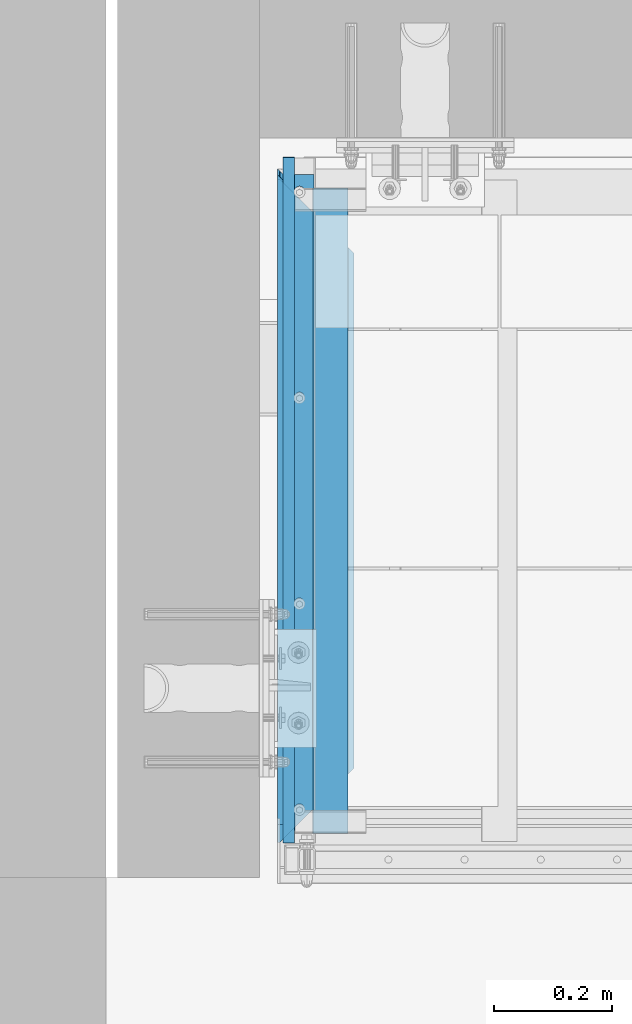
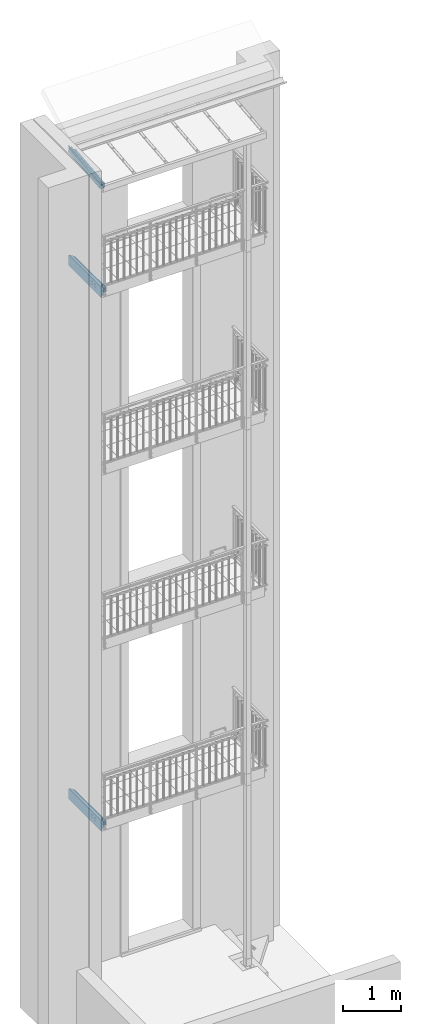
# One storey, part 37 of 162: 4 beams, 3 members, 22 openings.
"""IFC2X3 building model written with IfcOpenShell, lengths in millimetres."""

from ifc_helpers import new_model, entity, si_unit, converted_unit, point, frame, frame_2d, origin, origin_with_axes, origin_2d, place, context, project, spatial, polyline, circle_curve, line_curve, trimmed, segment, composite_curve, rectangle, hollow_rectangle, circle, outline, extrude, clip, halfspace, material, element, save


model = new_model("IFC2X3")

# Units and contexts
model_context = context("Model", 3, precision=1e-09, world=origin_with_axes())
ifc_project = project(units=[si_unit("LENGTHUNIT", "METRE", prefix="MILLI"), si_unit("AREAUNIT", "SQUARE_METRE"), si_unit("VOLUMEUNIT", "CUBIC_METRE"), converted_unit("PLANEANGLEUNIT", "DEGREE", entity("IfcPlaneAngleMeasure", 0.01745329), si_unit("PLANEANGLEUNIT", "RADIAN"), dimensions=[0, 0, 0, 0, 0, 0, 0])], contexts=[model_context])

# Site, building, storey
site_placement = place(None, origin_with_axes())
site = spatial("IfcSite", under=ifc_project, at=site_placement, Name="Hermannstra?e 1a, 60318 Frankfurt", CompositionType="ELEMENT")
building_placement = place(site_placement, origin_with_axes())
building = spatial("IfcBuilding", under=site, at=building_placement, Name="Struktur 1", CompositionType="ELEMENT")
storey_placement = place(building_placement, origin_with_axes())
storey = spatial("IfcBuildingStorey", under=building, at=storey_placement, Name="Default Storey", CompositionType="ELEMENT", Elevation=0.0)

# Beam, openings
ifc_material_1 = material(Name="S355JR")
beam_1_placement = place(None, frame((2618.30936482, 3047.91661163, 15121.999), z_axis=(0.0, -1.0, 0.0), x_axis=(1.0, 0.0, 0.0)))
beam_1 = element("IfcBeam", 1, at=beam_1_placement, inside=storey, material=ifc_material_1, Name="-", ObjectType="-", context=model_context, shape_type="Clipping", body=[
    clip(clip(extrude(outline(composite_curve([segment(trimmed(circle_curve(frame_2d((57.999999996, -107.999999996), x_axis=(1.0, 0.0)), 7.000000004), [point((58.0, -115.0))], [point((65.0, -108.0))], True, "CARTESIAN"), True, "CONTINUOUS"), segment(trimmed(line_curve((65.0, -108.0), (0.0, 1.0), 31.0), [point((65.0, -108.0))], [point((65.0, -77.0))], True, "CARTESIAN"), True, "CONTINUOUS"), segment(trimmed(circle_curve(frame_2d((57.999999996, -77.000000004), x_axis=(1.0, 0.0)), 7.000000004), [point((65.0, -77.0))], [point((58.0, -70.0))], True, "CARTESIAN"), True, "CONTINUOUS"), segment(trimmed(line_curve((58.0, -70.0), (-1.0, 0.0), 23.0), [point((58.0, -70.0))], [point((35.0, -70.0))], True, "CARTESIAN"), True, "CONTINUOUS"), segment(trimmed(line_curve((35.0, -70.0), (0.0, -1.0), 4.0), [point((35.0, -70.0))], [point((35.0, -74.0))], True, "CARTESIAN"), True, "CONTINUOUS"), segment(trimmed(line_curve((35.0, -74.0), (1.0, 0.0), 23.0), [point((35.0, -74.0))], [point((58.0, -74.0))], True, "CARTESIAN"), True, "CONTINUOUS"), segment(trimmed(circle_curve(frame_2d((57.999999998, -77.000000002), x_axis=(-1.0, 0.0)), 3.000000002), [point((58.0, -74.0))], [point((61.0, -77.0))], False, "CARTESIAN"), True, "CONTINUOUS"), segment(trimmed(line_curve((61.0, -77.0), (0.0, -1.0), 31.0), [point((61.0, -77.0))], [point((61.0, -108.0))], True, "CARTESIAN"), True, "CONTINUOUS"), segment(trimmed(circle_curve(frame_2d((57.999999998, -107.999999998), x_axis=(-1.0, 0.0)), 3.000000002), [point((61.0, -108.0))], [point((58.0, -111.0))], False, "CARTESIAN"), True, "CONTINUOUS"), segment(trimmed(line_curve((58.0, -111.0), (-1.0, 0.0), 116.0), [point((58.0, -111.0))], [point((-58.0, -111.0))], True, "CARTESIAN"), True, "CONTINUOUS"), segment(trimmed(circle_curve(frame_2d((-57.999999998, -107.999999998), x_axis=(-1.0, 0.0)), 3.000000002), [point((-58.0, -111.0))], [point((-61.0, -108.0))], False, "CARTESIAN"), True, "CONTINUOUS"), segment(trimmed(line_curve((-61.0, -108.0), (0.0, 1.0), 216.0), [point((-61.0, -108.0))], [point((-61.0, 108.0))], True, "CARTESIAN"), True, "CONTINUOUS"), segment(trimmed(circle_curve(frame_2d((-57.999999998, 107.999999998), x_axis=(-1.0, 0.0)), 3.000000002), [point((-61.0, 108.0))], [point((-58.0, 111.0))], False, "CARTESIAN"), True, "CONTINUOUS"), segment(trimmed(line_curve((-58.0, 111.0), (1.0, 0.0), 46.0), [point((-58.0, 111.0))], [point((-12.0, 111.0))], True, "CARTESIAN"), True, "CONTINUOUS"), segment(trimmed(circle_curve(frame_2d((-12.000000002, 107.999999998), x_axis=(-1.0, 0.0)), 3.000000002), [point((-12.0, 111.0))], [point((-9.0, 108.0))], False, "CARTESIAN"), True, "CONTINUOUS"), segment(trimmed(line_curve((-9.0, 108.0), (0.0, -1.0), 33.0), [point((-9.0, 108.0))], [point((-9.0, 75.0))], True, "CARTESIAN"), True, "CONTINUOUS"), segment(trimmed(line_curve((-9.0, 75.0), (1.0, 0.0), 4.0), [point((-9.0, 75.0))], [point((-5.0, 75.0))], True, "CARTESIAN"), True, "CONTINUOUS"), segment(trimmed(line_curve((-5.0, 75.0), (0.0, 1.0), 33.0), [point((-5.0, 75.0))], [point((-5.0, 108.0))], True, "CARTESIAN"), True, "CONTINUOUS"), segment(trimmed(circle_curve(frame_2d((-12.000000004, 107.999999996), x_axis=(1.0, 0.0)), 7.000000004), [point((-5.0, 108.0))], [point((-12.0, 115.0))], True, "CARTESIAN"), True, "CONTINUOUS"), segment(trimmed(line_curve((-12.0, 115.0), (-1.0, 0.0), 46.0), [point((-12.0, 115.0))], [point((-58.0, 115.0))], True, "CARTESIAN"), True, "CONTINUOUS"), segment(trimmed(circle_curve(frame_2d((-57.999999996, 107.999999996), x_axis=(1.0, 0.0)), 7.000000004), [point((-58.0, 115.0))], [point((-65.0, 108.0))], True, "CARTESIAN"), True, "CONTINUOUS"), segment(trimmed(line_curve((-65.0, 108.0), (0.0, -1.0), 216.0), [point((-65.0, 108.0))], [point((-65.0, -108.0))], True, "CARTESIAN"), True, "CONTINUOUS"), segment(trimmed(circle_curve(frame_2d((-57.999999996, -107.999999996), x_axis=(1.0, 0.0)), 7.000000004), [point((-65.0, -108.0))], [point((-58.0, -115.0))], True, "CARTESIAN"), True, "CONTINUOUS"), segment(trimmed(line_curve((-58.0, -115.0), (1.0, 0.0), 116.0), [point((-58.0, -115.0))], [point((58.0, -115.0))], True, "CARTESIAN"), True, "CONTINUOUS")], self_intersect=False)), origin(), (0.0, 0.0, 1.0), 1884.614475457), halfspace(frame((-6.350702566, -15121.999, 435.957949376), z_axis=(-0.707106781, 0.0, 0.707106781), x_axis=(0.707106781, 0.0, 0.707106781)), True)), halfspace(frame((-2111.960076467, -15121.999, 3554.265899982), z_axis=(-0.707106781, 0.0, -0.707106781), x_axis=(-0.707106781, 0.0, 0.707106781)), True)),
])
opening_1_placement = place(beam_1_placement, frame((-56.065030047, 215.1, 367.985828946), z_axis=(0.0, 1.0, 0.0), x_axis=(-1.0, 0.0, 0.0)))
element("IfcOpeningElement", 2, at=opening_1_placement, cuts=beam_1, ObjectType="Opening", context=model_context, shape_type="SweptSolid", body=[
    extrude(outline(polyline([(0.0, 0.0), (32.796627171, 0.0), (32.796627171, 13.322408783), (0.0, 13.322408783), (0.0, 0.0)])), origin(), (0.0, 0.0, -1.0), 430.2),
])
opening_2_placement = place(beam_1_placement, frame((-72.463343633, 215.1, 1509.96744212), z_axis=(0.0, -1.0, 0.0), x_axis=(-1.0, 0.0, 0.0)))
element("IfcOpeningElement", 3, at=opening_2_placement, cuts=beam_1, ObjectType="Opening", context=model_context, shape_type="SweptSolid", body=[
    extrude(outline(polyline([(-16.398313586, -6.661204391), (16.398313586, -6.661204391), (16.398313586, 6.661204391), (-16.398313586, 6.661204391), (-16.398313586, -6.661204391)])), origin(), (0.0, 0.0, 1.0), 430.2),
])
opening_3_placement = place(beam_1_placement, frame((-60.5, 115.0, 1502.307651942), z_axis=(-1.0, 0.0, 0.0), x_axis=(0.0, 0.0, 1.0)))
element("IfcOpeningElement", 4, at=opening_3_placement, cuts=beam_1, ObjectType="Opening", context=model_context, shape_type="SweptSolid", body=[
    extrude(circle(Radius=10.001, at=frame_2d((-15.0, -20.0), x_axis=(1.0, 0.0))), origin(), (0.0, 0.0, 1.0), 5.0),
])
opening_4_placement = place(beam_1_placement, frame((-65.5, 19.999999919, 1242.306530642), z_axis=(1.0, 0.0, 0.0), x_axis=(0.0, 0.0, -1.0)))
element("IfcOpeningElement", 5, at=opening_4_placement, cuts=beam_1, ObjectType="Opening", context=model_context, shape_type="SweptSolid", body=[
    extrude(outline(composite_curve([segment(trimmed(line_curve((41.5, 20.999), (1.0, 0.0), 17.0), [point((41.5, 20.999))], [point((58.5, 20.999))], True, "CARTESIAN"), True, "CONTINUOUS"), segment(trimmed(circle_curve(frame_2d((58.5, 30.0), x_axis=(1.0, 0.0)), 9.001), [point((58.5, 20.999))], [point((58.5, 39.001))], True, "CARTESIAN"), True, "CONTINUOUS"), segment(trimmed(line_curve((58.5, 39.001), (-1.0, 0.0), 17.0), [point((58.5, 39.001))], [point((41.5, 39.001))], True, "CARTESIAN"), True, "CONTINUOUS"), segment(trimmed(circle_curve(frame_2d((41.5, 30.0), x_axis=(1.0, 0.0)), 9.001), [point((41.5, 39.001))], [point((41.5, 20.999))], True, "CARTESIAN"), True, "CONTINUOUS")], self_intersect=False)), origin(), (0.0, 0.0, 1.0), 5.0),
])
opening_5_placement = place(beam_1_placement, frame((-65.5, 19.999999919, 1242.306530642), z_axis=(1.0, 0.0, 0.0), x_axis=(0.0, 0.0, -1.0)))
element("IfcOpeningElement", 6, at=opening_5_placement, cuts=beam_1, ObjectType="Opening", context=model_context, shape_type="SweptSolid", body=[
    extrude(outline(composite_curve([segment(trimmed(line_curve((-58.5, 20.999), (1.0, 0.0), 17.0), [point((-58.5, 20.999))], [point((-41.5, 20.999))], True, "CARTESIAN"), True, "CONTINUOUS"), segment(trimmed(circle_curve(frame_2d((-41.5, 30.0), x_axis=(1.0, 0.0)), 9.001), [point((-41.5, 20.999))], [point((-41.5, 39.001))], True, "CARTESIAN"), True, "CONTINUOUS"), segment(trimmed(line_curve((-41.5, 39.001), (-1.0, 0.0), 17.0), [point((-41.5, 39.001))], [point((-58.5, 39.001))], True, "CARTESIAN"), True, "CONTINUOUS"), segment(trimmed(circle_curve(frame_2d((-58.5, 30.0), x_axis=(1.0, 0.0)), 9.001), [point((-58.5, 39.001))], [point((-58.5, 20.999))], True, "CARTESIAN"), True, "CONTINUOUS")], self_intersect=False)), origin(), (0.0, 0.0, 1.0), 5.0),
])
opening_6_placement = place(beam_1_placement, frame((-65.5, 19.999999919, 1242.306530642), z_axis=(1.0, 0.0, 0.0), x_axis=(0.0, 0.0, -1.0)))
element("IfcOpeningElement", 7, at=opening_6_placement, cuts=beam_1, ObjectType="Opening", context=model_context, shape_type="SweptSolid", body=[
    extrude(outline(composite_curve([segment(trimmed(line_curve((41.5, -39.001), (1.0, 0.0), 17.0), [point((41.5, -39.001))], [point((58.5, -39.001))], True, "CARTESIAN"), True, "CONTINUOUS"), segment(trimmed(circle_curve(frame_2d((58.5, -30.0), x_axis=(1.0, 0.0)), 9.001), [point((58.5, -39.001))], [point((58.5, -20.999))], True, "CARTESIAN"), True, "CONTINUOUS"), segment(trimmed(line_curve((58.5, -20.999), (-1.0, 0.0), 17.0), [point((58.5, -20.999))], [point((41.5, -20.999))], True, "CARTESIAN"), True, "CONTINUOUS"), segment(trimmed(circle_curve(frame_2d((41.5, -30.0), x_axis=(1.0, 0.0)), 9.001), [point((41.5, -20.999))], [point((41.5, -39.001))], True, "CARTESIAN"), True, "CONTINUOUS")], self_intersect=False)), origin(), (0.0, 0.0, 1.0), 5.0),
])
opening_7_placement = place(beam_1_placement, frame((-65.5, 19.999999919, 1242.306530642), z_axis=(1.0, 0.0, 0.0), x_axis=(0.0, 0.0, -1.0)))
element("IfcOpeningElement", 8, at=opening_7_placement, cuts=beam_1, ObjectType="Opening", context=model_context, shape_type="SweptSolid", body=[
    extrude(outline(composite_curve([segment(trimmed(line_curve((-58.5, -39.001), (1.0, 0.0), 17.0), [point((-58.5, -39.001))], [point((-41.5, -39.001))], True, "CARTESIAN"), True, "CONTINUOUS"), segment(trimmed(circle_curve(frame_2d((-41.5, -30.0), x_axis=(1.0, 0.0)), 9.001), [point((-41.5, -39.001))], [point((-41.5, -20.999))], True, "CARTESIAN"), True, "CONTINUOUS"), segment(trimmed(line_curve((-41.5, -20.999), (-1.0, 0.0), 17.0), [point((-41.5, -20.999))], [point((-58.5, -20.999))], True, "CARTESIAN"), True, "CONTINUOUS"), segment(trimmed(circle_curve(frame_2d((-58.5, -30.0), x_axis=(1.0, 0.0)), 9.001), [point((-58.5, -20.999))], [point((-58.5, -39.001))], True, "CARTESIAN"), True, "CONTINUOUS")], self_intersect=False)), origin(), (0.0, 0.0, 1.0), 5.0),
])

# Beams
ifc_material_2 = material(Name="S235JR")
for number, where, z_axis, x_axis in (
    (9, (2643.30936482, 1559.609373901, 15141.999), (0.0, 1.0, 0.0), (-1.0, 0.0, 0.0)),
    (10, (2643.30936482, 1559.609373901, 3860.0), (0.0, 1.0, 0.0), (-1.0, 0.0, 0.0)),
):
    element("IfcBeam", number, at=place(None, frame(where, z_axis=z_axis, x_axis=x_axis)), inside=storey, material=ifc_material_2, Name="-", ObjectType="-", context=model_context, shape_type="SweptSolid", body=[
        extrude(hollow_rectangle(XDim=60.0, YDim=80.0, WallThickness=4.0, InnerFilletRadius=4.0, OuterFilletRadius=8.0, at=origin_2d()), origin(), (0.0, 0.0, 1.0), 1092.0),
    ])

# Beam, openings
beam_2_placement = place(None, frame((2618.30936482, 3047.91661163, 3840.0), z_axis=(0.0, -1.0, 0.0), x_axis=(1.0, 0.0, 0.0)))
beam_2 = element("IfcBeam", 11, at=beam_2_placement, inside=storey, material=ifc_material_1, Name="-", ObjectType="-", context=model_context, shape_type="Clipping", body=[
    clip(clip(extrude(outline(composite_curve([segment(trimmed(circle_curve(frame_2d((57.999999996, -107.999999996), x_axis=(1.0, 0.0)), 7.000000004), [point((58.0, -115.0))], [point((65.0, -108.0))], True, "CARTESIAN"), True, "CONTINUOUS"), segment(trimmed(line_curve((65.0, -108.0), (0.0, 1.0), 31.0), [point((65.0, -108.0))], [point((65.0, -77.0))], True, "CARTESIAN"), True, "CONTINUOUS"), segment(trimmed(circle_curve(frame_2d((57.999999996, -77.000000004), x_axis=(1.0, 0.0)), 7.000000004), [point((65.0, -77.0))], [point((58.0, -70.0))], True, "CARTESIAN"), True, "CONTINUOUS"), segment(trimmed(line_curve((58.0, -70.0), (-1.0, 0.0), 23.0), [point((58.0, -70.0))], [point((35.0, -70.0))], True, "CARTESIAN"), True, "CONTINUOUS"), segment(trimmed(line_curve((35.0, -70.0), (0.0, -1.0), 4.0), [point((35.0, -70.0))], [point((35.0, -74.0))], True, "CARTESIAN"), True, "CONTINUOUS"), segment(trimmed(line_curve((35.0, -74.0), (1.0, 0.0), 23.0), [point((35.0, -74.0))], [point((58.0, -74.0))], True, "CARTESIAN"), True, "CONTINUOUS"), segment(trimmed(circle_curve(frame_2d((57.999999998, -77.000000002), x_axis=(-1.0, 0.0)), 3.000000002), [point((58.0, -74.0))], [point((61.0, -77.0))], False, "CARTESIAN"), True, "CONTINUOUS"), segment(trimmed(line_curve((61.0, -77.0), (0.0, -1.0), 31.0), [point((61.0, -77.0))], [point((61.0, -108.0))], True, "CARTESIAN"), True, "CONTINUOUS"), segment(trimmed(circle_curve(frame_2d((57.999999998, -107.999999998), x_axis=(-1.0, 0.0)), 3.000000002), [point((61.0, -108.0))], [point((58.0, -111.0))], False, "CARTESIAN"), True, "CONTINUOUS"), segment(trimmed(line_curve((58.0, -111.0), (-1.0, 0.0), 116.0), [point((58.0, -111.0))], [point((-58.0, -111.0))], True, "CARTESIAN"), True, "CONTINUOUS"), segment(trimmed(circle_curve(frame_2d((-57.999999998, -107.999999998), x_axis=(-1.0, 0.0)), 3.000000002), [point((-58.0, -111.0))], [point((-61.0, -108.0))], False, "CARTESIAN"), True, "CONTINUOUS"), segment(trimmed(line_curve((-61.0, -108.0), (0.0, 1.0), 216.0), [point((-61.0, -108.0))], [point((-61.0, 108.0))], True, "CARTESIAN"), True, "CONTINUOUS"), segment(trimmed(circle_curve(frame_2d((-57.999999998, 107.999999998), x_axis=(-1.0, 0.0)), 3.000000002), [point((-61.0, 108.0))], [point((-58.0, 111.0))], False, "CARTESIAN"), True, "CONTINUOUS"), segment(trimmed(line_curve((-58.0, 111.0), (1.0, 0.0), 46.0), [point((-58.0, 111.0))], [point((-12.0, 111.0))], True, "CARTESIAN"), True, "CONTINUOUS"), segment(trimmed(circle_curve(frame_2d((-12.000000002, 107.999999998), x_axis=(-1.0, 0.0)), 3.000000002), [point((-12.0, 111.0))], [point((-9.0, 108.0))], False, "CARTESIAN"), True, "CONTINUOUS"), segment(trimmed(line_curve((-9.0, 108.0), (0.0, -1.0), 33.0), [point((-9.0, 108.0))], [point((-9.0, 75.0))], True, "CARTESIAN"), True, "CONTINUOUS"), segment(trimmed(line_curve((-9.0, 75.0), (1.0, 0.0), 4.0), [point((-9.0, 75.0))], [point((-5.0, 75.0))], True, "CARTESIAN"), True, "CONTINUOUS"), segment(trimmed(line_curve((-5.0, 75.0), (0.0, 1.0), 33.0), [point((-5.0, 75.0))], [point((-5.0, 108.0))], True, "CARTESIAN"), True, "CONTINUOUS"), segment(trimmed(circle_curve(frame_2d((-12.000000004, 107.999999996), x_axis=(1.0, 0.0)), 7.000000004), [point((-5.0, 108.0))], [point((-12.0, 115.0))], True, "CARTESIAN"), True, "CONTINUOUS"), segment(trimmed(line_curve((-12.0, 115.0), (-1.0, 0.0), 46.0), [point((-12.0, 115.0))], [point((-58.0, 115.0))], True, "CARTESIAN"), True, "CONTINUOUS"), segment(trimmed(circle_curve(frame_2d((-57.999999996, 107.999999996), x_axis=(1.0, 0.0)), 7.000000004), [point((-58.0, 115.0))], [point((-65.0, 108.0))], True, "CARTESIAN"), True, "CONTINUOUS"), segment(trimmed(line_curve((-65.0, 108.0), (0.0, -1.0), 216.0), [point((-65.0, 108.0))], [point((-65.0, -108.0))], True, "CARTESIAN"), True, "CONTINUOUS"), segment(trimmed(circle_curve(frame_2d((-57.999999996, -107.999999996), x_axis=(1.0, 0.0)), 7.000000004), [point((-65.0, -108.0))], [point((-58.0, -115.0))], True, "CARTESIAN"), True, "CONTINUOUS"), segment(trimmed(line_curve((-58.0, -115.0), (1.0, 0.0), 116.0), [point((-58.0, -115.0))], [point((58.0, -115.0))], True, "CARTESIAN"), True, "CONTINUOUS")], self_intersect=False)), origin(), (0.0, 0.0, 1.0), 1884.614475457), halfspace(frame((-6.350702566, -3840.0, 435.957949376), z_axis=(-0.707106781, 0.0, 0.707106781), x_axis=(0.707106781, 0.0, 0.707106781)), True)), halfspace(frame((-2111.960076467, -3840.0, 3554.265899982), z_axis=(-0.707106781, 0.0, -0.707106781), x_axis=(-0.707106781, 0.0, 0.707106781)), True)),
])
opening_8_placement = place(beam_2_placement, frame((-56.065030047, 215.1, 367.985828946), z_axis=(0.0, 1.0, 0.0), x_axis=(-1.0, 0.0, 0.0)))
element("IfcOpeningElement", 12, at=opening_8_placement, cuts=beam_2, ObjectType="Opening", context=model_context, shape_type="SweptSolid", body=[
    extrude(outline(polyline([(0.0, 0.0), (32.796627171, 0.0), (32.796627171, 13.322408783), (0.0, 13.322408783), (0.0, 0.0)])), origin(), (0.0, 0.0, -1.0), 430.2),
])
opening_9_placement = place(beam_2_placement, frame((-72.463343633, 215.1, 1509.96744212), z_axis=(0.0, -1.0, 0.0), x_axis=(-1.0, 0.0, 0.0)))
element("IfcOpeningElement", 13, at=opening_9_placement, cuts=beam_2, ObjectType="Opening", context=model_context, shape_type="SweptSolid", body=[
    extrude(outline(polyline([(-16.398313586, -6.661204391), (16.398313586, -6.661204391), (16.398313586, 6.661204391), (-16.398313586, 6.661204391), (-16.398313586, -6.661204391)])), origin(), (0.0, 0.0, 1.0), 430.2),
])
opening_10_placement = place(beam_2_placement, frame((-60.5, 115.0, 1502.307651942), z_axis=(-1.0, 0.0, 0.0), x_axis=(0.0, 0.0, 1.0)))
element("IfcOpeningElement", 14, at=opening_10_placement, cuts=beam_2, ObjectType="Opening", context=model_context, shape_type="SweptSolid", body=[
    extrude(circle(Radius=10.001, at=frame_2d((-15.0, -20.0), x_axis=(1.0, 0.0))), origin(), (0.0, 0.0, 1.0), 5.0),
])
opening_11_placement = place(beam_2_placement, frame((-65.5, 19.999999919, 1242.306530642), z_axis=(1.0, 0.0, 0.0), x_axis=(0.0, 0.0, -1.0)))
element("IfcOpeningElement", 15, at=opening_11_placement, cuts=beam_2, ObjectType="Opening", context=model_context, shape_type="SweptSolid", body=[
    extrude(outline(composite_curve([segment(trimmed(line_curve((41.5, 20.999), (1.0, 0.0), 17.0), [point((41.5, 20.999))], [point((58.5, 20.999))], True, "CARTESIAN"), True, "CONTINUOUS"), segment(trimmed(circle_curve(frame_2d((58.5, 30.0), x_axis=(1.0, 0.0)), 9.001), [point((58.5, 20.999))], [point((58.5, 39.001))], True, "CARTESIAN"), True, "CONTINUOUS"), segment(trimmed(line_curve((58.5, 39.001), (-1.0, 0.0), 17.0), [point((58.5, 39.001))], [point((41.5, 39.001))], True, "CARTESIAN"), True, "CONTINUOUS"), segment(trimmed(circle_curve(frame_2d((41.5, 30.0), x_axis=(1.0, 0.0)), 9.001), [point((41.5, 39.001))], [point((41.5, 20.999))], True, "CARTESIAN"), True, "CONTINUOUS")], self_intersect=False)), origin(), (0.0, 0.0, 1.0), 5.0),
])
opening_12_placement = place(beam_2_placement, frame((-65.5, 19.999999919, 1242.306530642), z_axis=(1.0, 0.0, 0.0), x_axis=(0.0, 0.0, -1.0)))
element("IfcOpeningElement", 16, at=opening_12_placement, cuts=beam_2, ObjectType="Opening", context=model_context, shape_type="SweptSolid", body=[
    extrude(outline(composite_curve([segment(trimmed(line_curve((-58.5, 20.999), (1.0, 0.0), 17.0), [point((-58.5, 20.999))], [point((-41.5, 20.999))], True, "CARTESIAN"), True, "CONTINUOUS"), segment(trimmed(circle_curve(frame_2d((-41.5, 30.0), x_axis=(1.0, 0.0)), 9.001), [point((-41.5, 20.999))], [point((-41.5, 39.001))], True, "CARTESIAN"), True, "CONTINUOUS"), segment(trimmed(line_curve((-41.5, 39.001), (-1.0, 0.0), 17.0), [point((-41.5, 39.001))], [point((-58.5, 39.001))], True, "CARTESIAN"), True, "CONTINUOUS"), segment(trimmed(circle_curve(frame_2d((-58.5, 30.0), x_axis=(1.0, 0.0)), 9.001), [point((-58.5, 39.001))], [point((-58.5, 20.999))], True, "CARTESIAN"), True, "CONTINUOUS")], self_intersect=False)), origin(), (0.0, 0.0, 1.0), 5.0),
])
opening_13_placement = place(beam_2_placement, frame((-65.5, 19.999999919, 1242.306530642), z_axis=(1.0, 0.0, 0.0), x_axis=(0.0, 0.0, -1.0)))
element("IfcOpeningElement", 17, at=opening_13_placement, cuts=beam_2, ObjectType="Opening", context=model_context, shape_type="SweptSolid", body=[
    extrude(outline(composite_curve([segment(trimmed(line_curve((41.5, -39.001), (1.0, 0.0), 17.0), [point((41.5, -39.001))], [point((58.5, -39.001))], True, "CARTESIAN"), True, "CONTINUOUS"), segment(trimmed(circle_curve(frame_2d((58.5, -30.0), x_axis=(1.0, 0.0)), 9.001), [point((58.5, -39.001))], [point((58.5, -20.999))], True, "CARTESIAN"), True, "CONTINUOUS"), segment(trimmed(line_curve((58.5, -20.999), (-1.0, 0.0), 17.0), [point((58.5, -20.999))], [point((41.5, -20.999))], True, "CARTESIAN"), True, "CONTINUOUS"), segment(trimmed(circle_curve(frame_2d((41.5, -30.0), x_axis=(1.0, 0.0)), 9.001), [point((41.5, -20.999))], [point((41.5, -39.001))], True, "CARTESIAN"), True, "CONTINUOUS")], self_intersect=False)), origin(), (0.0, 0.0, 1.0), 5.0),
])
opening_14_placement = place(beam_2_placement, frame((-65.5, 19.999999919, 1242.306530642), z_axis=(1.0, 0.0, 0.0), x_axis=(0.0, 0.0, -1.0)))
element("IfcOpeningElement", 18, at=opening_14_placement, cuts=beam_2, ObjectType="Opening", context=model_context, shape_type="SweptSolid", body=[
    extrude(outline(composite_curve([segment(trimmed(line_curve((-58.5, -39.001), (1.0, 0.0), 17.0), [point((-58.5, -39.001))], [point((-41.5, -39.001))], True, "CARTESIAN"), True, "CONTINUOUS"), segment(trimmed(circle_curve(frame_2d((-41.5, -30.0), x_axis=(1.0, 0.0)), 9.001), [point((-41.5, -39.001))], [point((-41.5, -20.999))], True, "CARTESIAN"), True, "CONTINUOUS"), segment(trimmed(line_curve((-41.5, -20.999), (-1.0, 0.0), 17.0), [point((-41.5, -20.999))], [point((-58.5, -20.999))], True, "CARTESIAN"), True, "CONTINUOUS"), segment(trimmed(circle_curve(frame_2d((-58.5, -30.0), x_axis=(1.0, 0.0)), 9.001), [point((-58.5, -20.999))], [point((-58.5, -39.001))], True, "CARTESIAN"), True, "CONTINUOUS")], self_intersect=False)), origin(), (0.0, 0.0, 1.0), 5.0),
])

# Member, openings
member_1_placement = place(None, frame((2603.30936482, 2729.006063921, 17457.401226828), z_axis=(0.0, 0.994521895, 0.104528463), x_axis=(0.0, -0.104528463, 0.994521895)))
member_1 = element("IfcMember", 19, at=member_1_placement, inside=storey, material=ifc_material_2, Name="-", ObjectType="-", context=model_context, shape_type="Clipping", body=[
    clip(extrude(hollow_rectangle(XDim=100.0, YDim=100.0, WallThickness=4.0, InnerFilletRadius=4.0, OuterFilletRadius=8.0, at=origin_2d()), origin(), (0.0, 0.0, -1.0), 1154.995580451), halfspace(frame((-17076.5089462, 917.770413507, -1017.77182772), z_axis=(0.0, -0.707106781, -0.707106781), x_axis=(0.074115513, 0.705161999, -0.705161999)), True)),
])
opening_15_placement = place(member_1_placement, frame((25.0, 45.5, -944.995580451), z_axis=(0.0, 1.0, 0.0), x_axis=(1.0, 0.0, 0.0)))
element("IfcOpeningElement", 20, at=opening_15_placement, cuts=member_1, ObjectType="Opening", context=model_context, shape_type="SweptSolid", body=[
    extrude(circle(Radius=6.001, at=frame_2d((10.0, 200.0), x_axis=(1.0, 0.0))), origin(), (0.0, 0.0, 1.0), 5.0),
])
opening_16_placement = place(member_1_placement, frame((25.0, 45.5, -944.995580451), z_axis=(0.0, 1.0, 0.0), x_axis=(1.0, 0.0, 0.0)))
element("IfcOpeningElement", 21, at=opening_16_placement, cuts=member_1, ObjectType="Opening", context=model_context, shape_type="SweptSolid", body=[
    extrude(circle(Radius=6.001, at=frame_2d((-60.0, 200.0), x_axis=(1.0, 0.0))), origin(), (0.0, 0.0, 1.0), 5.0),
])
opening_17_placement = place(member_1_placement, frame((-45.5, -14.0, -881.76403905), z_axis=(1.0, 0.0, 0.0), x_axis=(0.0, 1.0, 0.0)))
element("IfcOpeningElement", 22, at=opening_17_placement, cuts=member_1, ObjectType="Opening", context=model_context, shape_type="SweptSolid", body=[
    extrude(circle(Radius=7.501, at=frame_2d((0.0, 7.501), x_axis=(1.0, 0.0))), origin(), (0.0, 0.0, -1.0), 5.0),
])
opening_18_placement = place(member_1_placement, frame((-45.5, -14.0, -1001.76403905), z_axis=(1.0, 0.0, 0.0), x_axis=(0.0, 1.0, 0.0)))
element("IfcOpeningElement", 23, at=opening_18_placement, cuts=member_1, ObjectType="Opening", context=model_context, shape_type="SweptSolid", body=[
    extrude(circle(Radius=7.501, at=frame_2d((0.0, 7.501), x_axis=(1.0, 0.0))), origin(), (0.0, 0.0, -1.0), 5.0),
])

# Member
ifc_material_3 = material(Name="Alu")
member_2_placement = place(None, frame((2572.80936482, 2703.078061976, 17512.754242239), z_axis=(0.0, 0.994521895, 0.104528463), x_axis=(0.0, -0.104528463, 0.994521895)))
element("IfcMember", 24, at=member_2_placement, inside=storey, material=ifc_material_3, Name="Girder", ObjectType="Girder", context=model_context, shape_type="SweptSolid", body=[
    extrude(rectangle(XDim=8.0, YDim=20.0, at=origin_2d()), origin(), (0.0, 0.0, -1.0), 1164.99558045),
])

# Member, openings
ifc_material_4 = material(Name="Gummi")
member_3_placement = place(None, frame((2590.80936482, 1565.009235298, 17386.843906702), z_axis=(0.0, 0.994521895, 0.104528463), x_axis=(-1.0, 0.0, 0.0)))
member_3 = element("IfcMember", 25, at=member_3_placement, inside=storey, material=ifc_material_4, Name="Girder", ObjectType="Girder", context=model_context, shape_type="SweptSolid", body=[
    extrude(outline(polyline([(-25.0, 1.5), (-25.0, -1.5), (25.0, -1.5), (25.0, 1.5), (-25.0, 1.5)])), origin(), (0.0, 0.0, 1.0), 1114.995580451),
])
opening_19_placement = place(member_3_placement, frame((-8.000999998, -2.0, 387.497790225), z_axis=(0.0, -1.0, 0.0), x_axis=(1.0, 0.0, 0.0)))
element("IfcOpeningElement", 26, at=opening_19_placement, cuts=member_3, ObjectType="Opening", context=model_context, shape_type="SweptSolid", body=[
    extrude(circle(Radius=8.001, at=frame_2d((8.001, 0.0), x_axis=(1.0, 0.0))), origin(), (0.0, 0.0, -1.0), 4.0),
])
opening_20_placement = place(member_3_placement, frame((-8.000999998, -2.0, 37.497790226), z_axis=(0.0, -1.0, 0.0), x_axis=(1.0, 0.0, 0.0)))
element("IfcOpeningElement", 27, at=opening_20_placement, cuts=member_3, ObjectType="Opening", context=model_context, shape_type="SweptSolid", body=[
    extrude(circle(Radius=8.001, at=frame_2d((8.001, 0.0), x_axis=(1.0, 0.0))), origin(), (0.0, 0.0, -1.0), 4.0),
])
opening_21_placement = place(member_3_placement, frame((-8.000999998, -2.0, 1087.497790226), z_axis=(0.0, -1.0, 0.0), x_axis=(1.0, 0.0, 0.0)))
element("IfcOpeningElement", 28, at=opening_21_placement, cuts=member_3, ObjectType="Opening", context=model_context, shape_type="SweptSolid", body=[
    extrude(circle(Radius=8.001, at=frame_2d((8.001, 0.0), x_axis=(1.0, 0.0))), origin(), (0.0, 0.0, -1.0), 4.0),
])
opening_22_placement = place(member_3_placement, frame((-8.000999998, -2.0, 737.497790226), z_axis=(0.0, -1.0, 0.0), x_axis=(1.0, 0.0, 0.0)))
element("IfcOpeningElement", 29, at=opening_22_placement, cuts=member_3, ObjectType="Opening", context=model_context, shape_type="SweptSolid", body=[
    extrude(circle(Radius=8.001, at=frame_2d((8.001, 0.0), x_axis=(1.0, 0.0))), origin(), (0.0, 0.0, -1.0), 4.0),
])

save(model, "model.ifc")
